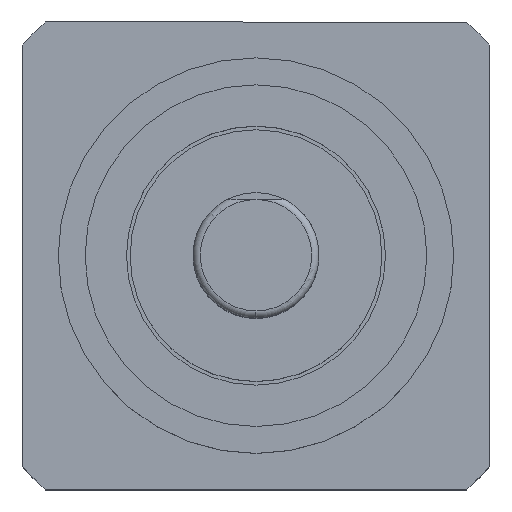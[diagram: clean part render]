
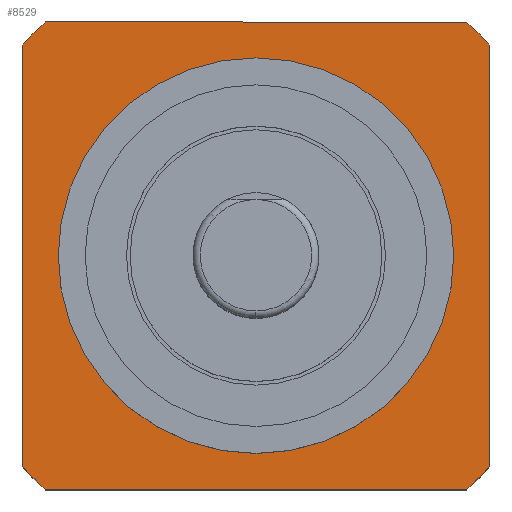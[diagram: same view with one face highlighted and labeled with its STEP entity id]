
A CAD part, top view. The second image highlights one B-rep face of the part: STEP entity #8529.
In plain terms, the highlighted planar face has unit normal (0, 0, 1).
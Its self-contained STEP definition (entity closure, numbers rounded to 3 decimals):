
#188 = ORIENTED_EDGE ( 'NONE', *, *, #977, .T. ) ;
#240 = VERTEX_POINT ( 'NONE', #3659 ) ;
#508 = EDGE_CURVE ( 'NONE', #11417, #1998, #1333, .T. ) ;
#808 = DIRECTION ( 'NONE',  ( 0., 0., 1. ) ) ;
#833 = AXIS2_PLACEMENT_3D ( 'NONE', #8322, #808, #4025 ) ;
#856 = LINE ( 'NONE', #3324, #5201 ) ;
#977 = EDGE_CURVE ( 'NONE', #12425, #10548, #4508, .T. ) ;
#995 = VERTEX_POINT ( 'NONE', #5177 ) ;
#1023 = VERTEX_POINT ( 'NONE', #11233 ) ;
#1123 = DIRECTION ( 'NONE',  ( 0., 0., 1. ) ) ;
#1245 = VECTOR ( 'NONE', #9446, 1000. ) ;
#1333 = CIRCLE ( 'NONE', #12529, 5.5 ) ;
#1582 = EDGE_CURVE ( 'NONE', #240, #12425, #856, .T. ) ;
#1610 = AXIS2_PLACEMENT_3D ( 'NONE', #2765, #2088, #13730 ) ;
#1646 = EDGE_LOOP ( 'NONE', ( #188, #12046, #8474, #3208, #3746, #5669, #6831, #5713 ) ) ;
#1839 = CARTESIAN_POINT ( 'NONE',  ( 0., 0., 8. ) ) ;
#1903 = CARTESIAN_POINT ( 'NONE',  ( -5.858, -6.5, 8. ) ) ;
#1998 = VERTEX_POINT ( 'NONE', #3340 ) ;
#2088 = DIRECTION ( 'NONE',  ( 0., 0., 1. ) ) ;
#2387 = EDGE_CURVE ( 'NONE', #995, #1023, #13436, .T. ) ;
#2676 = DIRECTION ( 'NONE',  ( 0., 0., 1. ) ) ;
#2699 = DIRECTION ( 'NONE',  ( -1., 0., 0. ) ) ;
#2765 = CARTESIAN_POINT ( 'NONE',  ( 0., 0., 8. ) ) ;
#2911 = ORIENTED_EDGE ( 'NONE', *, *, #8607, .F. ) ;
#2929 = DIRECTION ( 'NONE',  ( 1., 0., 0. ) ) ;
#2942 = PLANE ( 'NONE',  #833 ) ;
#3208 = ORIENTED_EDGE ( 'NONE', *, *, #8549, .T. ) ;
#3324 = CARTESIAN_POINT ( 'NONE',  ( -5.858, 6.5, 8. ) ) ;
#3340 = CARTESIAN_POINT ( 'NONE',  ( -5.5, 0., 8. ) ) ;
#3576 = CARTESIAN_POINT ( 'NONE',  ( 0., 0., 8. ) ) ;
#3659 = CARTESIAN_POINT ( 'NONE',  ( 5.858, 6.5, 8. ) ) ;
#3660 = AXIS2_PLACEMENT_3D ( 'NONE', #1839, #9400, #2929 ) ;
#3746 = ORIENTED_EDGE ( 'NONE', *, *, #12032, .T. ) ;
#3751 = EDGE_CURVE ( 'NONE', #9630, #240, #4454, .T. ) ;
#3787 = LINE ( 'NONE', #4137, #9191 ) ;
#3822 = AXIS2_PLACEMENT_3D ( 'NONE', #3576, #9859, #4701 ) ;
#3841 = EDGE_CURVE ( 'NONE', #10019, #9630, #3787, .T. ) ;
#4025 = DIRECTION ( 'NONE',  ( 1., 0., 0. ) ) ;
#4121 = CARTESIAN_POINT ( 'NONE',  ( 0., 0., 8. ) ) ;
#4137 = CARTESIAN_POINT ( 'NONE',  ( 6.5, -5.858, 8. ) ) ;
#4454 = CIRCLE ( 'NONE', #3822, 8.75 ) ;
#4508 = CIRCLE ( 'NONE', #1610, 8.75 ) ;
#4701 = DIRECTION ( 'NONE',  ( 1., 0., 0. ) ) ;
#4749 = CARTESIAN_POINT ( 'NONE',  ( -6.5, 5.858, 8. ) ) ;
#4785 = CARTESIAN_POINT ( 'NONE',  ( -5.858, 6.5, 8. ) ) ;
#4903 = LINE ( 'NONE', #7023, #13497 ) ;
#5106 = AXIS2_PLACEMENT_3D ( 'NONE', #11789, #5300, #12885 ) ;
#5177 = CARTESIAN_POINT ( 'NONE',  ( -6.5, -5.858, 8. ) ) ;
#5201 = VECTOR ( 'NONE', #2699, 1000. ) ;
#5215 = CARTESIAN_POINT ( 'NONE',  ( 5.858, -6.5, 8. ) ) ;
#5300 = DIRECTION ( 'NONE',  ( 0., 0., 1. ) ) ;
#5611 = CARTESIAN_POINT ( 'NONE',  ( 0., 0., 8. ) ) ;
#5669 = ORIENTED_EDGE ( 'NONE', *, *, #3841, .T. ) ;
#5713 = ORIENTED_EDGE ( 'NONE', *, *, #1582, .T. ) ;
#6148 = CARTESIAN_POINT ( 'NONE',  ( 6.5, 5.858, 8. ) ) ;
#6831 = ORIENTED_EDGE ( 'NONE', *, *, #3751, .T. ) ;
#6978 = LINE ( 'NONE', #1903, #1245 ) ;
#7023 = CARTESIAN_POINT ( 'NONE',  ( -6.5, -5.858, 8. ) ) ;
#7298 = FACE_BOUND ( 'NONE', #8664, .T. ) ;
#7437 = VERTEX_POINT ( 'NONE', #5215 ) ;
#8322 = CARTESIAN_POINT ( 'NONE',  ( 0., 0., 8. ) ) ;
#8474 = ORIENTED_EDGE ( 'NONE', *, *, #2387, .T. ) ;
#8529 = ADVANCED_FACE ( 'NONE', ( #7298, #9833 ), #2942, .T. ) ;
#8549 = EDGE_CURVE ( 'NONE', #1023, #7437, #6978, .T. ) ;
#8607 = EDGE_CURVE ( 'NONE', #1998, #11417, #9168, .T. ) ;
#8664 = EDGE_LOOP ( 'NONE', ( #2911, #13019 ) ) ;
#9168 = CIRCLE ( 'NONE', #5106, 5.5 ) ;
#9189 = DIRECTION ( 'NONE',  ( 0., -1., 0. ) ) ;
#9191 = VECTOR ( 'NONE', #12616, 1000. ) ;
#9400 = DIRECTION ( 'NONE',  ( 0., 0., 1. ) ) ;
#9446 = DIRECTION ( 'NONE',  ( 1., 0., 0. ) ) ;
#9515 = EDGE_CURVE ( 'NONE', #10548, #995, #4903, .T. ) ;
#9630 = VERTEX_POINT ( 'NONE', #6148 ) ;
#9833 = FACE_OUTER_BOUND ( 'NONE', #1646, .T. ) ;
#9859 = DIRECTION ( 'NONE',  ( 0., 0., 1. ) ) ;
#10019 = VERTEX_POINT ( 'NONE', #10298 ) ;
#10068 = CARTESIAN_POINT ( 'NONE',  ( 5.5, 0., 8. ) ) ;
#10298 = CARTESIAN_POINT ( 'NONE',  ( 6.5, -5.858, 8. ) ) ;
#10548 = VERTEX_POINT ( 'NONE', #4749 ) ;
#10579 = CIRCLE ( 'NONE', #3660, 8.75 ) ;
#11233 = CARTESIAN_POINT ( 'NONE',  ( -5.858, -6.5, 8. ) ) ;
#11417 = VERTEX_POINT ( 'NONE', #10068 ) ;
#11789 = CARTESIAN_POINT ( 'NONE',  ( 0., 0., 8. ) ) ;
#12032 = EDGE_CURVE ( 'NONE', #7437, #10019, #10579, .T. ) ;
#12046 = ORIENTED_EDGE ( 'NONE', *, *, #9515, .T. ) ;
#12210 = AXIS2_PLACEMENT_3D ( 'NONE', #4121, #2676, #12628 ) ;
#12425 = VERTEX_POINT ( 'NONE', #4785 ) ;
#12529 = AXIS2_PLACEMENT_3D ( 'NONE', #5611, #1123, #13872 ) ;
#12616 = DIRECTION ( 'NONE',  ( 0., 1., 0. ) ) ;
#12628 = DIRECTION ( 'NONE',  ( 1., 0., 0. ) ) ;
#12885 = DIRECTION ( 'NONE',  ( 1., 0., 0. ) ) ;
#13019 = ORIENTED_EDGE ( 'NONE', *, *, #508, .F. ) ;
#13436 = CIRCLE ( 'NONE', #12210, 8.75 ) ;
#13497 = VECTOR ( 'NONE', #9189, 1000. ) ;
#13730 = DIRECTION ( 'NONE',  ( 1., 0., 0. ) ) ;
#13872 = DIRECTION ( 'NONE',  ( 1., 0., 0. ) ) ;
